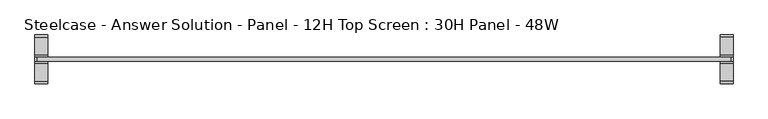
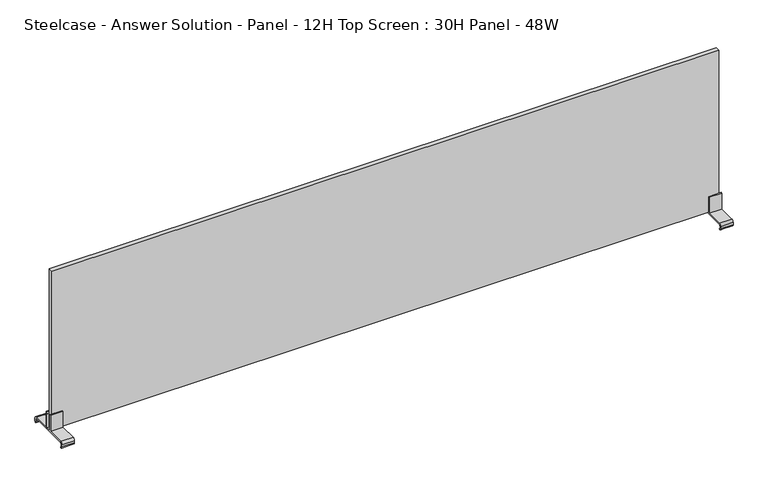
"""IFC4 building model written with IfcOpenShell, lengths in millimetres: furniture geometry, Steelcase - Answer Solution - Panel - 12H Top Screen : 30H Panel - 48W."""

from ifc_helpers import new_model, si_unit, point, frame, frame_2d, origin, place, context, project, spatial, polyline, circle_curve, trimmed, segment, composite_curve, outline, extrude, source, transform, mapped, element, save


def steelcase_answer_solution_panel_12h_top_screen_30h_panel_48w_172a31a2(model_context):
    return source(origin(), model_context, "Body", "SweptSolid", [
        extrude(outline(polyline([(605.536, -3.683001), (-605.536, -3.683001), (-605.536, 3.683001), (605.536, 3.683001), (605.536, -3.683001)])), frame((0.0, 0.0, 770.3819981), z_axis=(0.0, 0.0, 1.0), x_axis=(1.0, 0.0, 0.0)), (0.0, 0.0, 1.0), 304.8),
        extrude(outline(composite_curve([segment(trimmed(circle_curve(frame_2d((38.5445, 766.445)), 1.905), [point((40.4495, 766.445))], [point((38.5445, 768.35))], True, "CARTESIAN"), True, "CONTINUOUS"), segment(polyline([(38.5445, 768.35), (-38.5445, 768.35)]), True, "CONTINUOUS"), segment(trimmed(circle_curve(frame_2d((-38.5445, 766.445)), 1.905), [point((-38.5445, 768.35))], [point((-40.4495, 766.445))], True, "CARTESIAN"), True, "CONTINUOUS"), segment(polyline([(-40.4495, 766.445), (-40.4495, 761.8341187)]), True, "CONTINUOUS"), segment(trimmed(circle_curve(frame_2d((-38.5445, 761.8341187)), 1.905), [point((-40.4495, 761.8341187))], [point((-38.6743328, 759.9335481))], True, "CARTESIAN"), True, "CONTINUOUS"), segment(polyline([(-38.6743328, 759.9335481), (-39.2392449, 758.3535566)]), True, "CONTINUOUS"), segment(trimmed(circle_curve(frame_2d((-38.5459934, 762.2284569)), 3.9364261), [point((-39.2392449, 758.3535566))], [point((-42.4824195, 762.2284569))], False, "CARTESIAN"), True, "CONTINUOUS"), segment(polyline([(-42.4824195, 762.2284569), (-42.4824195, 766.4452288)]), True, "CONTINUOUS"), segment(trimmed(circle_curve(frame_2d((-38.5459934, 766.4452288)), 3.9364261), [point((-42.4824195, 766.4452288))], [point((-38.5459934, 770.3816549))], False, "CARTESIAN"), True, "CONTINUOUS"), segment(polyline([(-38.5459934, 770.3816549), (-6.7310004, 770.3816549), (-6.7310004, 801.3699952), (-4.699, 801.3699952), (-4.699, 770.3819952), (4.699, 770.3819952), (4.699, 801.3700048), (6.7310004, 801.3700048), (6.7310004, 770.3816549), (38.5459934, 770.3816549)]), True, "CONTINUOUS"), segment(trimmed(circle_curve(frame_2d((38.5459934, 766.4452288)), 3.9364261), [point((38.5459934, 770.3816549))], [point((42.4824195, 766.4452288))], False, "CARTESIAN"), True, "CONTINUOUS"), segment(polyline([(42.4824195, 766.4452288), (42.4824195, 762.2284569)]), True, "CONTINUOUS"), segment(trimmed(circle_curve(frame_2d((38.5459934, 762.2284569)), 3.9364261), [point((42.4824195, 762.2284569))], [point((39.6631716, 758.4538889))], False, "CARTESIAN"), True, "CONTINUOUS"), segment(polyline([(39.6631716, 758.4538889), (39.1055128, 760.0135996)]), True, "CONTINUOUS"), segment(trimmed(circle_curve(frame_2d((38.5445, 761.8341187)), 1.905), [point((39.1055128, 760.0135996))], [point((40.4495, 761.8341187))], True, "CARTESIAN"), True, "CONTINUOUS"), segment(polyline([(40.4495, 761.8341187), (40.4495, 766.445)]), True, "CONTINUOUS")], self_intersect=False)), frame((586.994, 0.0, 0.0), z_axis=(1.0, 0.0, 0.0), x_axis=(0.0, 1.0, 0.0)), (0.0, 0.0, 1.0), 22.606),
        extrude(outline(composite_curve([segment(trimmed(circle_curve(frame_2d((38.5445, 766.445)), 1.905), [point((40.4495, 766.445))], [point((38.5445, 768.35))], True, "CARTESIAN"), True, "CONTINUOUS"), segment(polyline([(38.5445, 768.35), (-38.5445, 768.35)]), True, "CONTINUOUS"), segment(trimmed(circle_curve(frame_2d((-38.5445, 766.445)), 1.905), [point((-38.5445, 768.35))], [point((-40.4495, 766.445))], True, "CARTESIAN"), True, "CONTINUOUS"), segment(polyline([(-40.4495, 766.445), (-40.4495, 761.8341187)]), True, "CONTINUOUS"), segment(trimmed(circle_curve(frame_2d((-38.5445, 761.8341187)), 1.905), [point((-40.4495, 761.8341187))], [point((-38.6743328, 759.9335481))], True, "CARTESIAN"), True, "CONTINUOUS"), segment(polyline([(-38.6743328, 759.9335481), (-39.2392449, 758.3535566)]), True, "CONTINUOUS"), segment(trimmed(circle_curve(frame_2d((-38.5459934, 762.2284569)), 3.9364261), [point((-39.2392449, 758.3535566))], [point((-42.4824195, 762.2284569))], False, "CARTESIAN"), True, "CONTINUOUS"), segment(polyline([(-42.4824195, 762.2284569), (-42.4824195, 766.4452288)]), True, "CONTINUOUS"), segment(trimmed(circle_curve(frame_2d((-38.5459934, 766.4452288)), 3.9364261), [point((-42.4824195, 766.4452288))], [point((-38.5459934, 770.3816549))], False, "CARTESIAN"), True, "CONTINUOUS"), segment(polyline([(-38.5459934, 770.3816549), (-6.7310004, 770.3816549), (-6.7310004, 801.3699952), (-4.699, 801.3699952), (-4.699, 770.3819952), (4.699, 770.3819952), (4.699, 801.3700048), (6.7310004, 801.3700048), (6.7310004, 770.3816549), (38.5459934, 770.3816549)]), True, "CONTINUOUS"), segment(trimmed(circle_curve(frame_2d((38.5459934, 766.4452288)), 3.9364261), [point((38.5459934, 770.3816549))], [point((42.4824195, 766.4452288))], False, "CARTESIAN"), True, "CONTINUOUS"), segment(polyline([(42.4824195, 766.4452288), (42.4824195, 762.2284569)]), True, "CONTINUOUS"), segment(trimmed(circle_curve(frame_2d((38.5459934, 762.2284569)), 3.9364261), [point((42.4824195, 762.2284569))], [point((39.6631716, 758.4538889))], False, "CARTESIAN"), True, "CONTINUOUS"), segment(polyline([(39.6631716, 758.4538889), (39.1055128, 760.0135996)]), True, "CONTINUOUS"), segment(trimmed(circle_curve(frame_2d((38.5445, 761.8341187)), 1.905), [point((39.1055128, 760.0135996))], [point((40.4495, 761.8341187))], True, "CARTESIAN"), True, "CONTINUOUS"), segment(polyline([(40.4495, 761.8341187), (40.4495, 766.445)]), True, "CONTINUOUS")], self_intersect=False)), frame((-609.6, 0.0, 0.0), z_axis=(1.0, 0.0, 0.0), x_axis=(0.0, 1.0, 0.0)), (0.0, 0.0, 1.0), 22.606),
    ])


if __name__ == "__main__":
    model = new_model("IFC4")
    model_context = context("Model", 3, world=origin())
    ifc_project = project(units=[si_unit("LENGTHUNIT", "METRE", prefix="MILLI")], contexts=[model_context])
    site = spatial("IfcSite", under=ifc_project)
    building = spatial("IfcBuilding", under=site)
    placement = place(None, origin())
    steelcase_answer_solution_panel_12h_top_screen_30h_panel_48w_shape = steelcase_answer_solution_panel_12h_top_screen_30h_panel_48w_172a31a2(model_context)
    element("IfcFurniture", 1, ObjectType="Steelcase - Answer Solution - Panel - 12H Top Screen : 30H Panel - 48W", at=placement, inside=building, context=model_context, shape_type="MappedRepresentation", body=[
        mapped(steelcase_answer_solution_panel_12h_top_screen_30h_panel_48w_shape, transform((0.0, 0.0, 0.0), x_axis=(1.0, 0.0, 0.0), y_axis=(0.0, 1.0, 0.0), z_axis=(0.0, 0.0, 1.0))),
    ])
    save(model, "model.ifc")
